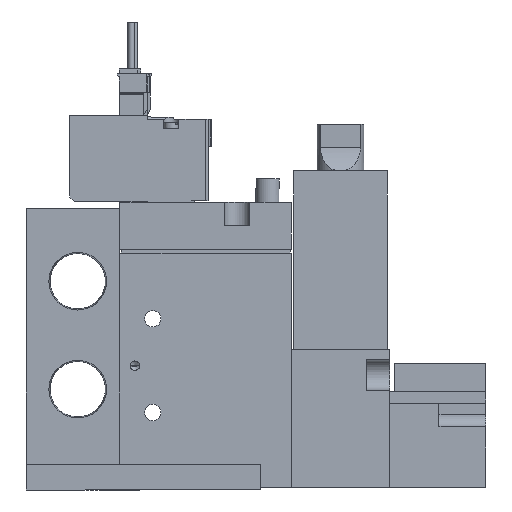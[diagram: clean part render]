
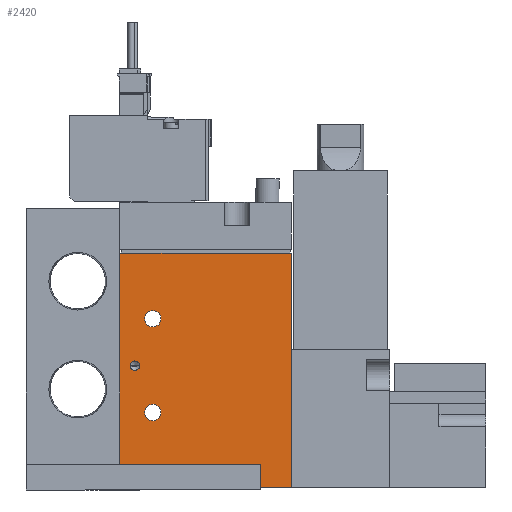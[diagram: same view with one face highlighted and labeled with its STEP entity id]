
A CAD part, left-side view. The second image highlights one B-rep face of the part: STEP entity #2420.
In plain terms, the highlighted planar face has unit normal (-1, 0, 0) as drawn and (1, 0, 0) by its records, which use the part's own axes.
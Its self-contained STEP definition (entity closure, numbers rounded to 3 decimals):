
#2420=ADVANCED_FACE('',(#3630,#3631,#3632,#3633),#3634,.F.);
#3630=FACE_BOUND('',#6197,.T.);
#3631=FACE_BOUND('',#6198,.T.);
#3632=FACE_BOUND('',#6199,.T.);
#3633=FACE_OUTER_BOUND('',#6200,.T.);
#3634=PLANE('',#6201);
#6197=EDGE_LOOP('',(#9081));
#6198=EDGE_LOOP('',(#9082));
#6199=EDGE_LOOP('',(#9083));
#6200=EDGE_LOOP('',(#9084,#9085,#9086,#9087));
#6201=AXIS2_PLACEMENT_3D('',#9088,#9089,#9090);
#9081=ORIENTED_EDGE('',*,*,#17614,.F.);
#9082=ORIENTED_EDGE('',*,*,#17632,.T.);
#9083=ORIENTED_EDGE('',*,*,#17618,.T.);
#9084=ORIENTED_EDGE('',*,*,#17633,.T.);
#9085=ORIENTED_EDGE('',*,*,#17630,.F.);
#9086=ORIENTED_EDGE('',*,*,#17627,.F.);
#9087=ORIENTED_EDGE('',*,*,#17634,.T.);
#9088=CARTESIAN_POINT('',(8.5,-19.444,50.0));
#9089=DIRECTION('',(-1.0,0.0,0.0));
#9090=DIRECTION('',(0.0,0.0,1.0));
#17614=EDGE_CURVE('',#20460,#20460,#20461,.T.);
#17618=EDGE_CURVE('',#20466,#20466,#20467,.T.);
#17627=EDGE_CURVE('',#20482,#20484,#20485,.T.);
#17630=EDGE_CURVE('',#20484,#20487,#20489,.T.);
#17632=EDGE_CURVE('',#20490,#20490,#20491,.T.);
#17633=EDGE_CURVE('',#20492,#20487,#20493,.T.);
#17634=EDGE_CURVE('',#20482,#20492,#20494,.T.);
#20460=VERTEX_POINT('',#25268);
#20461=CIRCLE('',#25269,1.0);
#20466=VERTEX_POINT('',#25274);
#20467=CIRCLE('',#25275,1.75);
#20482=VERTEX_POINT('',#25294);
#20484=VERTEX_POINT('',#25297);
#20485=LINE('',#25298,#25299);
#20487=VERTEX_POINT('',#25302);
#20489=LINE('',#25305,#25306);
#20490=VERTEX_POINT('',#25307);
#20491=CIRCLE('',#25308,1.75);
#20492=VERTEX_POINT('',#25309);
#20493=LINE('',#25310,#25311);
#20494=LINE('',#25312,#25313);
#25268=CARTESIAN_POINT('',(8.5,-17.244,26.0));
#25269=AXIS2_PLACEMENT_3D('',#32153,#32154,#32155);
#25274=CARTESIAN_POINT('',(8.5,-10.694,16.0));
#25275=AXIS2_PLACEMENT_3D('',#32162,#32163,#32164);
#25294=CARTESIAN_POINT('',(8.5,-19.444,50.0));
#25297=CARTESIAN_POINT('',(8.5,17.056,50.0));
#25298=CARTESIAN_POINT('',(8.5,-19.444,50.0));
#25299=VECTOR('',#32179,1.0);
#25302=CARTESIAN_POINT('',(8.5,17.056,0.0));
#25305=CARTESIAN_POINT('',(8.5,17.056,50.0));
#25306=VECTOR('',#32182,1.0);
#25307=CARTESIAN_POINT('',(8.5,-10.694,36.0));
#25308=AXIS2_PLACEMENT_3D('',#32183,#32184,#32185);
#25309=CARTESIAN_POINT('',(8.5,-19.444,0.0));
#25310=CARTESIAN_POINT('',(8.5,-19.444,0.0));
#25311=VECTOR('',#32186,1.0);
#25312=CARTESIAN_POINT('',(8.5,-19.444,50.0));
#25313=VECTOR('',#32187,1.0);
#32153=CARTESIAN_POINT('',(8.5,-16.244,26.0));
#32154=DIRECTION('',(1.0,0.,0.0));
#32155=DIRECTION('',(0.,-1.0,0.0));
#32162=CARTESIAN_POINT('',(8.5,-12.444,16.0));
#32163=DIRECTION('',(-1.0,0.0,0.0));
#32164=DIRECTION('',(0.0,1.0,0.0));
#32179=DIRECTION('',(0.0,1.0,0.0));
#32182=DIRECTION('',(0.0,0.0,-1.0));
#32183=CARTESIAN_POINT('',(8.5,-12.444,36.0));
#32184=DIRECTION('',(-1.0,0.0,0.0));
#32185=DIRECTION('',(0.0,1.0,0.0));
#32186=DIRECTION('',(0.0,1.0,0.0));
#32187=DIRECTION('',(0.0,0.0,-1.0));
